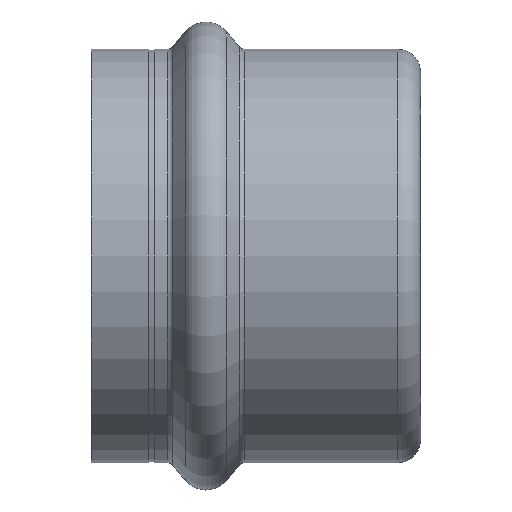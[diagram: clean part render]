
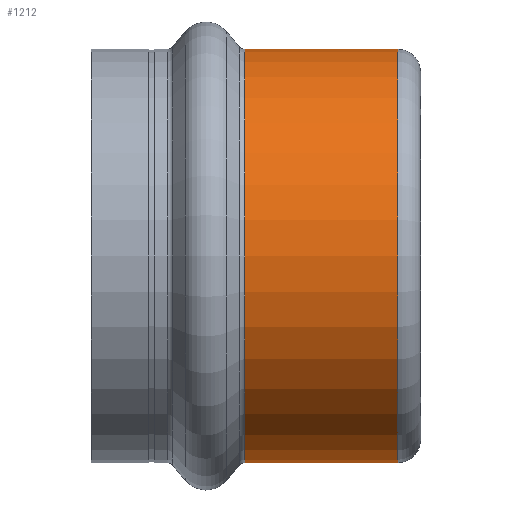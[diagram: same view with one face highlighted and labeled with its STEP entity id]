
A CAD part, front view. The second image highlights one B-rep face of the part: STEP entity #1212.
In plain terms, the highlighted cylindrical face has radius 28.9 mm (diameter 57.8 mm), a partial arc.
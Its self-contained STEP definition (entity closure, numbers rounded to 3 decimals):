
#3 = CYLINDRICAL_SURFACE ( 'NONE', #218, 28.9 ) ;
#5 = LINE ( 'NONE', #15, #1113 ) ;
#15 = CARTESIAN_POINT ( 'NONE',  ( -7.298, 0., -28.9 ) ) ;
#75 = VECTOR ( 'NONE', #811, 1000. ) ;
#96 = EDGE_CURVE ( 'NONE', #343, #416, #812, .T. ) ;
#116 = DIRECTION ( 'NONE',  ( -1., 0., 0. ) ) ;
#188 = AXIS2_PLACEMENT_3D ( 'NONE', #973, #1027, #345 ) ;
#218 = AXIS2_PLACEMENT_3D ( 'NONE', #1388, #116, #1381 ) ;
#287 = ORIENTED_EDGE ( 'NONE', *, *, #590, .T. ) ;
#305 = EDGE_CURVE ( 'NONE', #739, #416, #5, .T. ) ;
#316 = CARTESIAN_POINT ( 'NONE',  ( 46.3, 0., -28.9 ) ) ;
#343 = VERTEX_POINT ( 'NONE', #579 ) ;
#345 = DIRECTION ( 'NONE',  ( 0., 0., 1. ) ) ;
#352 = CARTESIAN_POINT ( 'NONE',  ( 24.911, 0., -28.9 ) ) ;
#378 = ORIENTED_EDGE ( 'NONE', *, *, #1349, .T. ) ;
#385 = VERTEX_POINT ( 'NONE', #787 ) ;
#416 = VERTEX_POINT ( 'NONE', #352 ) ;
#493 = ORIENTED_EDGE ( 'NONE', *, *, #96, .T. ) ;
#579 = CARTESIAN_POINT ( 'NONE',  ( 24.911, 0., 28.9 ) ) ;
#590 = EDGE_CURVE ( 'NONE', #739, #385, #839, .T. ) ;
#604 = FACE_OUTER_BOUND ( 'NONE', #1273, .T. ) ;
#705 = CARTESIAN_POINT ( 'NONE',  ( 24.911, 0., 0. ) ) ;
#711 = DIRECTION ( 'NONE',  ( 1., 0., 0. ) ) ;
#736 = AXIS2_PLACEMENT_3D ( 'NONE', #705, #711, #818 ) ;
#739 = VERTEX_POINT ( 'NONE', #316 ) ;
#785 = CARTESIAN_POINT ( 'NONE',  ( -7.298, 0., 28.9 ) ) ;
#787 = CARTESIAN_POINT ( 'NONE',  ( 46.3, 0., 28.9 ) ) ;
#811 = DIRECTION ( 'NONE',  ( -1., 0., 0. ) ) ;
#812 = CIRCLE ( 'NONE', #736, 28.9 ) ;
#818 = DIRECTION ( 'NONE',  ( 0., 0., -1. ) ) ;
#839 = CIRCLE ( 'NONE', #188, 28.9 ) ;
#962 = LINE ( 'NONE', #785, #75 ) ;
#973 = CARTESIAN_POINT ( 'NONE',  ( 46.3, 0., 0. ) ) ;
#1026 = DIRECTION ( 'NONE',  ( -1., 0., 0. ) ) ;
#1027 = DIRECTION ( 'NONE',  ( -1., 0., 0. ) ) ;
#1113 = VECTOR ( 'NONE', #1026, 1000. ) ;
#1212 = ADVANCED_FACE ( 'NONE', ( #604 ), #3, .T. ) ;
#1273 = EDGE_LOOP ( 'NONE', ( #1344, #287, #378, #493 ) ) ;
#1344 = ORIENTED_EDGE ( 'NONE', *, *, #305, .F. ) ;
#1349 = EDGE_CURVE ( 'NONE', #385, #343, #962, .T. ) ;
#1381 = DIRECTION ( 'NONE',  ( 0., 0., 1. ) ) ;
#1388 = CARTESIAN_POINT ( 'NONE',  ( -7.298, 0., 0. ) ) ;
